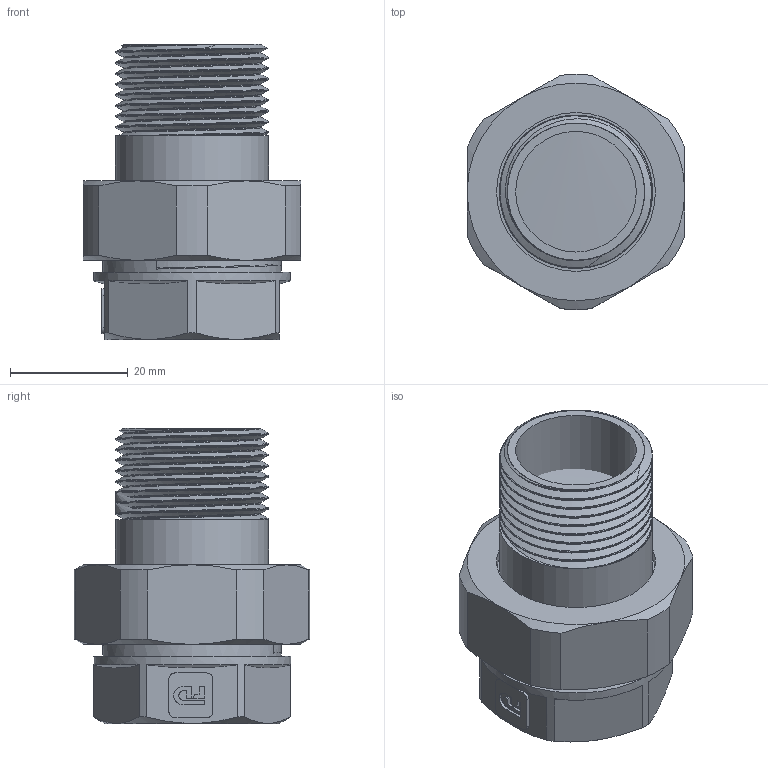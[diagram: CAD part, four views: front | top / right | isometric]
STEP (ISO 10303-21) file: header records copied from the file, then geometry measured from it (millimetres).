
FILE_DESCRIPTION(/* description */ (''),/* implementation_level */ '2;1');
FILE_NAME(/* name */ 'C:\Users\Doom\Desktop\Фадотех\Резьба\SN02 18.03.2020\SN02 18.03.2020.stp',/* time_stamp */ '2022-01-16T23:32:56+02:00',/* author */ ('Doom'),/* organization */ (''),/* preprocessor_version */ 'ST-DEVELOPER v18',/* originating_system */ 'Autodesk Inventor 2020',/* authorisation */ '');
FILE_SCHEMA (('AUTOMOTIVE_DESIGN { 1 0 10303 214 3 1 1 }'));
Length unit declared in the file: millimetre
Products named in the file (4): SC02 18.03.2020; SN02-1; 2010934D; 2010933D
Assembly tree (3 placements, depth 2):
  SC02 18.03.2020
    SN02-1
    2010934D
    2010933D
Bounding box: 37 x 39.96 x 50.2 mm (x, y, z)
Volume: 18219.9 mm3; surface area: 24601 mm2
Topology: 6 solids, 6 shells, 167 faces, 454 edges, 308 vertices
Faces by surface type: plane 53, cylinder 53, bspline 32, cone 29
Full cylindrical faces by diameter (mm): 20.5 x1, 23.31 x2, 23.75 x8, 24 x1, 24.5 x1, 25 x1, 26 x10, 26.44 x2, 26.866 x2, 27 x1, 29.826 x4, 30 x1, 30.29 x3, 33.5 x1
Entity records: 19139 total; most frequent: CARTESIAN_POINT 15115, ORIENTED_EDGE 904, DIRECTION 679, EDGE_CURVE 452, VERTEX_POINT 307, AXIS2_PLACEMENT_3D 265, EDGE_LOOP 189, ADVANCED_FACE 167
